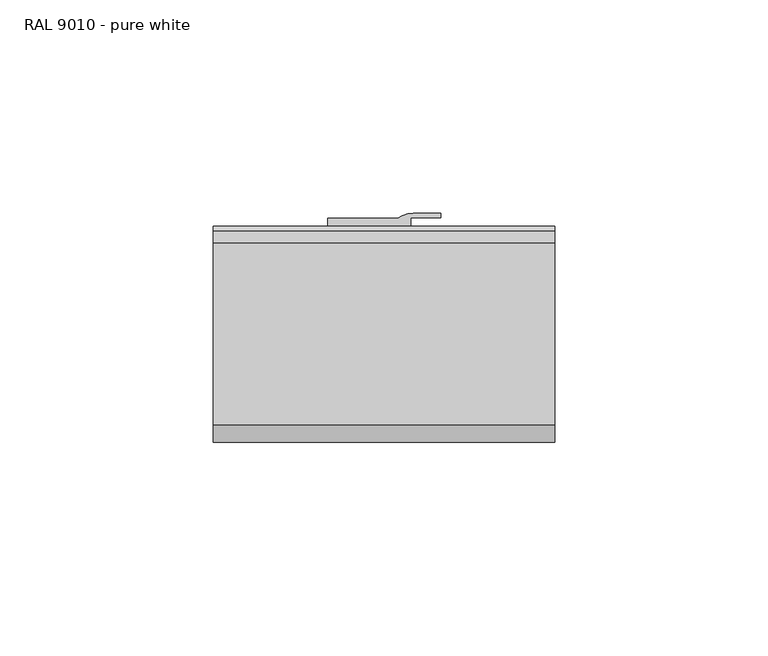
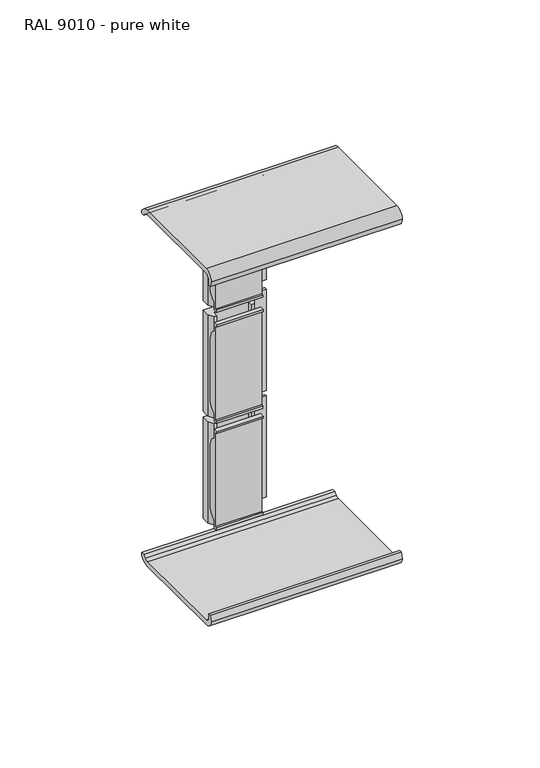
"""IFC4 building model written with IfcOpenShell, lengths in millimetres: cable carrier fitting geometry, Electrical_Installations_Hager_GBD-Joint-Cover-And-Coupling-Piece-Flat : RAL 9010 - pure white."""

from ifc_helpers import new_model, si_unit, point, frame, frame_2d, origin, place, context, project, spatial, polyline, circle_curve, trimmed, segment, composite_curve, outline, extrude, source, transform, mapped, element, save


def ral_9010_pure_white_ebf5c71a(model_context):
    return source(origin(), model_context, "Body", "SweptSolid", [
        extrude(outline(composite_curve([segment(polyline([(19.4940065, -27.021875), (19.4940065, -26.221875), (21.4940065, -26.221875), (21.4940065, -30.1456204)]), True, "CONTINUOUS"), segment(trimmed(circle_curve(frame_2d((18.0216088, -35.2155883)), 6.1450891), [point((21.4940065, -30.1456204))], [point((24.1502565, -34.7663694))], False, "CARTESIAN"), True, "CONTINUOUS"), segment(polyline([(24.1502565, -34.7663694), (24.1502565, -61.8515165)]), True, "CONTINUOUS"), segment(trimmed(circle_curve(frame_2d((19.0199211, -61.8515165)), 5.1303355), [point((24.1502565, -61.8515165))], [point((21.4940065, -66.3458733))], False, "CARTESIAN"), True, "CONTINUOUS"), segment(polyline([(21.4940065, -66.3458733), (21.4940065, -70.0625), (19.727375, -70.0625), (19.727375, -69.057314), (20.6940065, -69.057314), (20.6940065, -27.021875), (19.4940065, -27.021875)]), True, "CONTINUOUS")], self_intersect=False)), frame((-0.7125, 0.0, 0.0), z_axis=(1.0, 0.0, 0.0), x_axis=(0.0, 1.0, 0.0)), (0.0, 0.0, 1.0), 19.5),
        extrude(outline(composite_curve([segment(polyline([(-0.7125, 29.3502565), (15.6888516, 29.3502565)]), True, "CONTINUOUS"), segment(trimmed(circle_curve(frame_2d((19.3875, 24.2502565)), 6.3), [point((15.6888516, 29.3502565))], [point((19.3875, 30.5502565))], False, "CARTESIAN"), True, "CONTINUOUS"), segment(polyline([(19.3875, 30.5502565), (25.7875, 30.5502565), (25.7875, 29.5502565), (18.7875, 29.5502565), (18.7875, 26.0502565), (17.5173294, 23.8502565), (16.234474, 23.8502565), (16.234474, 26.0502565), (1.791584, 26.0502565), (1.791584, 23.8502565), (0.5576706, 23.8502565), (-0.7125, 26.0502565), (-0.7125, 29.3502565)]), True, "CONTINUOUS")], self_intersect=False)), frame((0.0, 0.0, -70.6), z_axis=(0.0, 0.0, 1.0), x_axis=(1.0, 0.0, 0.0)), (0.0, 0.0, 1.0), 45.0),
        extrude(outline(composite_curve([segment(polyline([(19.4940065, 69.578125), (19.4940065, 70.378125), (21.4940065, 70.378125), (21.4940065, 66.4543796)]), True, "CONTINUOUS"), segment(trimmed(circle_curve(frame_2d((18.0216088, 61.3844117)), 6.1450891), [point((21.4940065, 66.4543796))], [point((24.1502565, 61.8336306))], False, "CARTESIAN"), True, "CONTINUOUS"), segment(polyline([(24.1502565, 61.8336306), (24.1502565, 34.7484835)]), True, "CONTINUOUS"), segment(trimmed(circle_curve(frame_2d((19.0199211, 34.7484835)), 5.1303355), [point((24.1502565, 34.7484835))], [point((21.4940065, 30.2541267))], False, "CARTESIAN"), True, "CONTINUOUS"), segment(polyline([(21.4940065, 30.2541267), (21.4940065, 26.5375), (19.727375, 26.5375), (19.727375, 27.542686), (20.6940065, 27.542686), (20.6940065, 69.578125), (19.4940065, 69.578125)]), True, "CONTINUOUS")], self_intersect=False)), frame((-0.7125, 0.0, 0.0), z_axis=(1.0, 0.0, 0.0), x_axis=(0.0, 1.0, 0.0)), (0.0, 0.0, 1.0), 19.5),
        extrude(outline(composite_curve([segment(polyline([(-0.7125, 29.3502565), (15.6888516, 29.3502565)]), True, "CONTINUOUS"), segment(trimmed(circle_curve(frame_2d((19.3875, 24.2502565)), 6.3), [point((15.6888516, 29.3502565))], [point((19.3875, 30.5502565))], False, "CARTESIAN"), True, "CONTINUOUS"), segment(polyline([(19.3875, 30.5502565), (25.7875, 30.5502565), (25.7875, 29.5502565), (18.7875, 29.5502565), (18.7875, 26.0502565), (17.5173294, 23.8502565), (16.234474, 23.8502565), (16.234474, 26.0502565), (1.791584, 26.0502565), (1.791584, 23.8502565), (0.5576706, 23.8502565), (-0.7125, 26.0502565), (-0.7125, 29.3502565)]), True, "CONTINUOUS")], self_intersect=False)), frame((0.0, 0.0, 26.0), z_axis=(0.0, 0.0, 1.0), x_axis=(1.0, 0.0, 0.0)), (0.0, 0.0, 1.0), 45.0),
        extrude(outline(composite_curve([segment(polyline([(19.4940065, 20.278125), (19.4940065, 21.078125), (21.4940065, 21.078125), (21.4940065, 17.1543796)]), True, "CONTINUOUS"), segment(trimmed(circle_curve(frame_2d((18.0216088, 12.0844117)), 6.1450891), [point((21.4940065, 17.1543796))], [point((24.1502565, 12.5336306))], False, "CARTESIAN"), True, "CONTINUOUS"), segment(polyline([(24.1502565, 12.5336306), (24.1502565, -14.5515165)]), True, "CONTINUOUS"), segment(trimmed(circle_curve(frame_2d((19.0199211, -14.5515165)), 5.1303355), [point((24.1502565, -14.5515165))], [point((21.4940065, -19.0458733))], False, "CARTESIAN"), True, "CONTINUOUS"), segment(polyline([(21.4940065, -19.0458733), (21.4940065, -22.7625), (19.727375, -22.7625), (19.727375, -21.757314), (20.6940065, -21.757314), (20.6940065, 20.278125), (19.4940065, 20.278125)]), True, "CONTINUOUS")], self_intersect=False)), frame((-0.7125, 0.0, 0.0), z_axis=(1.0, 0.0, 0.0), x_axis=(0.0, 1.0, 0.0)), (0.0, 0.0, 1.0), 19.5),
        extrude(outline(composite_curve([segment(polyline([(-0.7125, 29.3502565), (15.6888516, 29.3502565)]), True, "CONTINUOUS"), segment(trimmed(circle_curve(frame_2d((19.3875, 24.2502565)), 6.3), [point((15.6888516, 29.3502565))], [point((19.3875, 30.5502565))], False, "CARTESIAN"), True, "CONTINUOUS"), segment(polyline([(19.3875, 30.5502565), (25.7875, 30.5502565), (25.7875, 29.5502565), (18.7875, 29.5502565), (18.7875, 26.0502565), (17.5173294, 23.8502565), (16.234474, 23.8502565), (16.234474, 26.0502565), (1.791584, 26.0502565), (1.791584, 23.8502565), (0.5576706, 23.8502565), (-0.7125, 26.0502565), (-0.7125, 29.3502565)]), True, "CONTINUOUS")], self_intersect=False)), frame((0.0, 0.0, -23.3), z_axis=(0.0, 0.0, 1.0), x_axis=(1.0, 0.0, 0.0)), (0.0, 0.0, 1.0), 45.0),
        extrude(outline(composite_curve([segment(trimmed(circle_curve(frame_2d((23.5218294, 74.95)), 2.0), [point((24.936043, 76.3642136))], [point((23.5218294, 76.95))], True, "CARTESIAN"), True, "CONTINUOUS"), segment(polyline([(23.5218294, 76.95), (-19.1007768, 76.95)]), True, "CONTINUOUS"), segment(trimmed(circle_curve(frame_2d((-19.1007768, 74.9471035)), 2.0028965), [point((-19.1007768, 76.95))], [point((-21.1036733, 74.9471035))], True, "CARTESIAN"), True, "CONTINUOUS"), segment(polyline([(-21.1036733, 74.9471035), (-21.2133917, 72.8535509), (-22.3130457, 72.9111813), (-23.0757368, 75.3659668)]), True, "CONTINUOUS"), segment(trimmed(circle_curve(frame_2d((-19.1163293, 74.970935)), 3.979065), [point((-23.0757368, 75.3659668))], [point((-19.1163293, 78.95))], False, "CARTESIAN"), True, "CONTINUOUS"), segment(polyline([(-19.1163293, 78.95), (23.5218294, 78.95)]), True, "CONTINUOUS"), segment(trimmed(circle_curve(frame_2d((23.5218294, 74.95)), 4.0), [point((23.5218294, 78.95))], [point((26.3502565, 77.7784271))], False, "CARTESIAN"), True, "CONTINUOUS"), segment(polyline([(26.3502565, 77.7784271), (27.5502565, 76.5784271), (27.5502565, 75.25), (26.0502565, 75.25), (24.936043, 76.3642136)]), True, "CONTINUOUS")], self_intersect=False)), frame((-27.5, 0.0, 0.0), z_axis=(1.0, 0.0, 0.0), x_axis=(0.0, 1.0, 0.0)), (0.0, 0.0, 1.0), 80.0),
        extrude(outline(composite_curve([segment(polyline([(24.936043, -76.3642136), (26.0502565, -75.25), (27.5502565, -75.25), (27.5502565, -76.5784271), (26.3502565, -77.7784271)]), True, "CONTINUOUS"), segment(trimmed(circle_curve(frame_2d((23.5218294, -74.95)), 4.0), [point((26.3502565, -77.7784271))], [point((23.5218294, -78.95))], False, "CARTESIAN"), True, "CONTINUOUS"), segment(polyline([(23.5218294, -78.95), (-19.1163293, -78.95)]), True, "CONTINUOUS"), segment(trimmed(circle_curve(frame_2d((-19.1163293, -74.970935)), 3.979065), [point((-19.1163293, -78.95))], [point((-23.0757368, -75.3659668))], False, "CARTESIAN"), True, "CONTINUOUS"), segment(polyline([(-23.0757368, -75.3659668), (-22.3130457, -72.9111813), (-21.2133917, -72.8535509), (-21.1036733, -74.9471035)]), True, "CONTINUOUS"), segment(trimmed(circle_curve(frame_2d((-19.1007768, -74.9471035)), 2.0028965), [point((-21.1036733, -74.9471035))], [point((-19.1007768, -76.95))], True, "CARTESIAN"), True, "CONTINUOUS"), segment(polyline([(-19.1007768, -76.95), (23.5218294, -76.95)]), True, "CONTINUOUS"), segment(trimmed(circle_curve(frame_2d((23.5218294, -74.95)), 2.0), [point((23.5218294, -76.95))], [point((24.936043, -76.3642136))], True, "CARTESIAN"), True, "CONTINUOUS")], self_intersect=False)), frame((-27.5, 0.0, 0.0), z_axis=(1.0, 0.0, 0.0), x_axis=(0.0, 1.0, 0.0)), (0.0, 0.0, 1.0), 80.0),
    ])


if __name__ == "__main__":
    model = new_model("IFC4")
    model_context = context("Model", 3, world=origin())
    ifc_project = project(units=[si_unit("LENGTHUNIT", "METRE", prefix="MILLI")], contexts=[model_context])
    site = spatial("IfcSite", under=ifc_project)
    building = spatial("IfcBuilding", under=site)
    placement = place(None, origin())
    ral_9010_pure_white_shape = ral_9010_pure_white_ebf5c71a(model_context)
    element("IfcCableCarrierFitting", 1, ObjectType="Electrical_Installations_Hager_GBD-Joint-Cover-And-Coupling-Piece-Flat : RAL 9010 - pure white", at=placement, inside=building, context=model_context, shape_type="MappedRepresentation", body=[
        mapped(ral_9010_pure_white_shape, transform((0.0, 0.0, 0.0), x_axis=(1.0, 0.0, 0.0), y_axis=(0.0, 1.0, 0.0), z_axis=(0.0, 0.0, 1.0))),
    ])
    save(model, "model.ifc")
